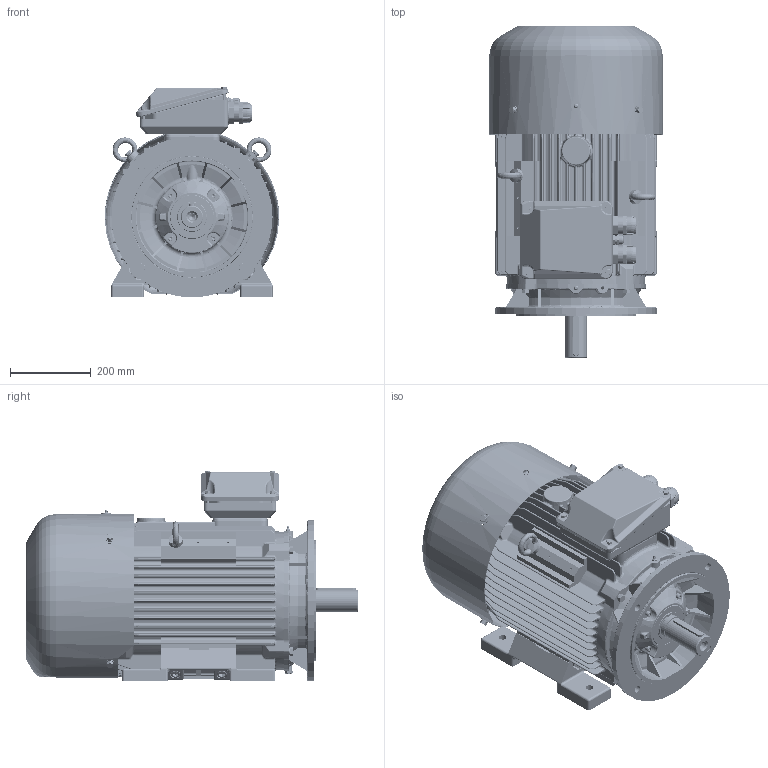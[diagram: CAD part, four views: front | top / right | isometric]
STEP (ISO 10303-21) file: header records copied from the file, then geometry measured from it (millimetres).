
FILE_DESCRIPTION(/* description */ ('Unknown'),/* implementation_level */ '2;1');
FILE_NAME(/* name */ 'SIEL200L2-12-K',/* time_stamp */ '2021-12-21T11:31:34+01:00',/* author */ ('Unknown'),/* organization */ ('Unknown'),/* preprocessor_version */ 'ST-DEVELOPER v16.7',/* originating_system */ 'DEX',/* authorisation */ $);
FILE_SCHEMA (('AUTOMOTIVE_DESIGN {1 0 10303 214 3 1 1}'));
Products named in the file (1): SIEL200L2-12-K
Bounding box: 433 x 823.5 x 523.4 mm (x, y, z)
Volume: 16136643.6 mm3; surface area: 4330811.4 mm2
Topology: 81 solids, 81 shells, 8856 faces, 22388 edges, 13678 vertices
Faces by surface type: plane 3849, cylinder 2401, bspline 1389, torus 714, cone 340, sphere 163
Full cylindrical faces by diameter (mm): 1.5 x2, 2.5 x2, 3.242 x2, 4 x2, 4.917 x2, 6 x3, 6.466 x4, 6.647 x12, 8 x13, 8.16 x6, 8.376 x8, 8.917 x2, 9 x9, 9.091 x2, 9.853 x4, 10 x30, 10.106 x8, 10.5 x5, 11 x2, 11.63 x4, 12 x8, 13 x7, 13.546 x4, 13.835 x5, 14 x14, 14.376 x2, 14.63 x6, 16 x11, 16.63 x4, 17 x1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
Entity records: 307517 total; most frequent: CARTESIAN_POINT 100116, ORIENTED_EDGE 43108, DIRECTION 39981, EDGE_CURVE 21554, AXIS2_PLACEMENT_3D 14149, VERTEX_POINT 13497, LINE 11683, VECTOR 11683
